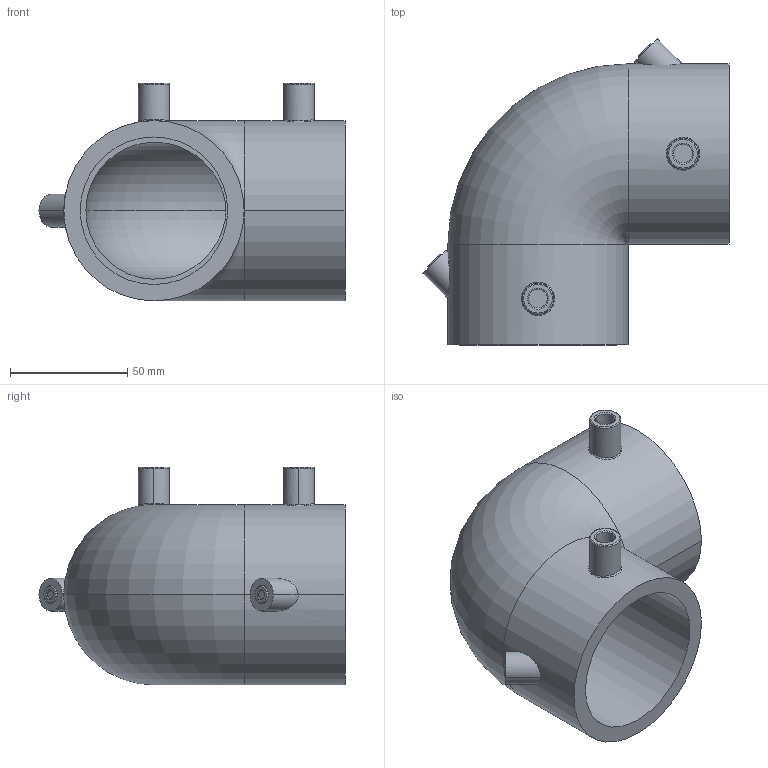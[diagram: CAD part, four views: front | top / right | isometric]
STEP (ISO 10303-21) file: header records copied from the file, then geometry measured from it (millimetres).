
FILE_DESCRIPTION (( 'STEP AP203' ), '1' );
FILE_NAME ('KP_23-63.step', '2011-08-08T11:39:03', ( '' ), ( '' ), 'SwSTEP 2.0', 'SolidWorks 2011', '' );
FILE_SCHEMA (( 'CONFIG_CONTROL_DESIGN' ));
Length unit declared in the file: millimetre
Products named in the file (1): KP_23-63
Bounding box: 130.71 x 130.71 x 93 mm (x, y, z)
Volume: 252455.1 mm3; surface area: 70664.1 mm2
Topology: 1 solids, 1 shells, 66 faces, 138 edges, 84 vertices
Faces by surface type: cylinder 28, plane 14, torus 12, cone 8, bspline 4
Entity records: 3108 total; most frequent: CARTESIAN_POINT 1602, DIRECTION 324, ORIENTED_EDGE 276, AXIS2_PLACEMENT_3D 143, EDGE_CURVE 138, VERTEX_POINT 84, CIRCLE 80, EDGE_LOOP 78
